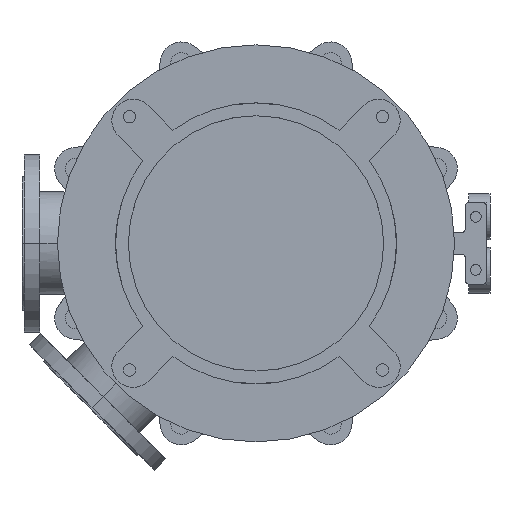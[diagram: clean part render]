
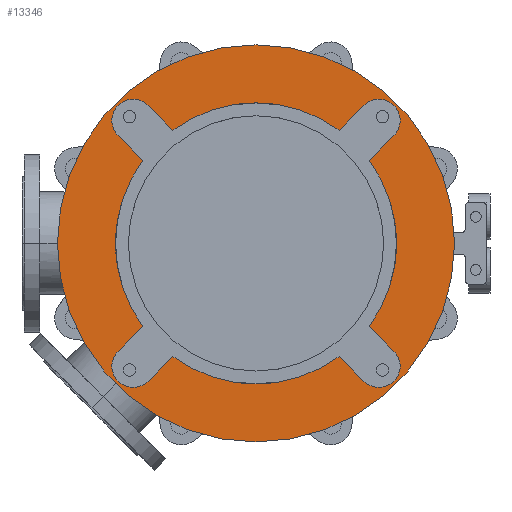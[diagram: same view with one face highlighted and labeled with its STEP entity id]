
A CAD part, front view. The second image highlights one B-rep face of the part: STEP entity #13346.
In plain terms, the highlighted planar face has unit normal (0, -1, 0).
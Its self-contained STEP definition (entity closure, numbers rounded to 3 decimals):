
#3019=CARTESIAN_POINT('',(0.,-25.,0.));
#3020=DIRECTION('',(0.,1.,0.));
#3021=DIRECTION('',(0.592,0.,-0.806));
#3022=AXIS2_PLACEMENT_3D('',#3019,#3020,#3021);
#3037=CARTESIAN_POINT('',(0.,-25.,0.));
#3038=DIRECTION('',(0.,1.,0.));
#3039=DIRECTION('',(0.806,0.,0.592));
#3040=AXIS2_PLACEMENT_3D('',#3037,#3038,#3039);
#3064=CARTESIAN_POINT('',(0.,-25.,0.));
#3065=DIRECTION('',(0.,1.,0.));
#3066=DIRECTION('',(-0.806,0.,-0.592));
#3067=AXIS2_PLACEMENT_3D('',#3064,#3065,#3066);
#3073=CARTESIAN_POINT('',(0.,-25.,0.));
#3074=DIRECTION('',(0.,1.,0.));
#3075=DIRECTION('',(-0.592,0.,0.806));
#3076=AXIS2_PLACEMENT_3D('',#3073,#3074,#3075);
#3251=CARTESIAN_POINT('',(0.,-25.,0.));
#3252=DIRECTION('',(0.,-1.,0.));
#3253=DIRECTION('',(-1.,0.,0.));
#3254=AXIS2_PLACEMENT_3D('',#3251,#3252,#3253);
#3256=CARTESIAN_POINT('',(0.,-25.,0.));
#3257=DIRECTION('',(0.,1.,0.));
#3258=DIRECTION('',(-1.,0.,0.));
#3259=AXIS2_PLACEMENT_3D('',#3256,#3257,#3258);
#3261=CARTESIAN_POINT('',(-173.241,-25.,173.241));
#3262=DIRECTION('',(0.,-1.,0.));
#3263=DIRECTION('',(0.707,0.,0.707));
#3264=AXIS2_PLACEMENT_3D('',#3261,#3262,#3263);
#3266=DIRECTION('',(0.707,0.,-0.707));
#3267=VECTOR('',#3266,49.286);
#3268=CARTESIAN_POINT('',(-194.454,-25.,152.028));
#3269=LINE('',#3268,#3267);
#3270=DIRECTION('',(-0.707,0.,-0.707));
#3271=VECTOR('',#3270,49.286);
#3272=CARTESIAN_POINT('',(-159.604,-25.,-117.178));
#3273=LINE('',#3272,#3271);
#3274=CARTESIAN_POINT('',(-173.241,-25.,-173.241));
#3275=DIRECTION('',(0.,-1.,0.));
#3276=DIRECTION('',(-0.707,0.,0.707));
#3277=AXIS2_PLACEMENT_3D('',#3274,#3275,#3276);
#3279=DIRECTION('',(0.707,0.,0.707));
#3280=VECTOR('',#3279,49.286);
#3281=CARTESIAN_POINT('',(-152.028,-25.,-194.454));
#3282=LINE('',#3281,#3280);
#3283=DIRECTION('',(0.707,0.,-0.707));
#3284=VECTOR('',#3283,49.286);
#3285=CARTESIAN_POINT('',(117.178,-25.,-159.604));
#3286=LINE('',#3285,#3284);
#3287=CARTESIAN_POINT('',(173.241,-25.,-173.241));
#3288=DIRECTION('',(0.,-1.,0.));
#3289=DIRECTION('',(-0.707,0.,-0.707));
#3290=AXIS2_PLACEMENT_3D('',#3287,#3288,#3289);
#3292=DIRECTION('',(-0.707,0.,0.707));
#3293=VECTOR('',#3292,49.286);
#3294=CARTESIAN_POINT('',(194.454,-25.,-152.028));
#3295=LINE('',#3294,#3293);
#3296=DIRECTION('',(0.707,0.,0.707));
#3297=VECTOR('',#3296,49.286);
#3298=CARTESIAN_POINT('',(159.604,-25.,117.178));
#3299=LINE('',#3298,#3297);
#3300=CARTESIAN_POINT('',(173.241,-25.,173.241));
#3301=DIRECTION('',(0.,-1.,0.));
#3302=DIRECTION('',(0.707,0.,-0.707));
#3303=AXIS2_PLACEMENT_3D('',#3300,#3301,#3302);
#3305=DIRECTION('',(-0.707,0.,-0.707));
#3306=VECTOR('',#3305,49.286);
#3307=CARTESIAN_POINT('',(152.028,-25.,194.454));
#3308=LINE('',#3307,#3306);
#3309=DIRECTION('',(-0.707,0.,0.707));
#3310=VECTOR('',#3309,49.286);
#3311=CARTESIAN_POINT('',(-117.178,-25.,159.604));
#3312=LINE('',#3311,#3310);
#8322=CARTESIAN_POINT('',(-280.,-25.,0.));
#8323=CARTESIAN_POINT('',(280.,-25.,0.));
#8324=VERTEX_POINT('',#8322);
#8325=VERTEX_POINT('',#8323);
#8346=CARTESIAN_POINT('',(-194.454,-25.,-152.028));
#8347=CARTESIAN_POINT('',(-152.028,-25.,-194.454));
#8348=VERTEX_POINT('',#8346);
#8349=VERTEX_POINT('',#8347);
#8350=CARTESIAN_POINT('',(-117.178,-25.,-159.604));
#8351=VERTEX_POINT('',#8350);
#8352=CARTESIAN_POINT('',(-159.604,-25.,-117.178));
#8353=VERTEX_POINT('',#8352);
#8362=CARTESIAN_POINT('',(152.028,-25.,-194.454));
#8363=CARTESIAN_POINT('',(194.454,-25.,-152.028));
#8364=VERTEX_POINT('',#8362);
#8365=VERTEX_POINT('',#8363);
#8366=CARTESIAN_POINT('',(159.604,-25.,-117.178));
#8367=VERTEX_POINT('',#8366);
#8368=CARTESIAN_POINT('',(117.178,-25.,-159.604));
#8369=VERTEX_POINT('',#8368);
#8378=CARTESIAN_POINT('',(194.454,-25.,152.028));
#8379=CARTESIAN_POINT('',(152.028,-25.,194.454));
#8380=VERTEX_POINT('',#8378);
#8381=VERTEX_POINT('',#8379);
#8382=CARTESIAN_POINT('',(117.178,-25.,159.604));
#8383=VERTEX_POINT('',#8382);
#8384=CARTESIAN_POINT('',(159.604,-25.,117.178));
#8385=VERTEX_POINT('',#8384);
#8394=CARTESIAN_POINT('',(-152.028,-25.,194.454));
#8395=CARTESIAN_POINT('',(-194.454,-25.,152.028));
#8396=VERTEX_POINT('',#8394);
#8397=VERTEX_POINT('',#8395);
#8398=CARTESIAN_POINT('',(-159.604,-25.,117.178));
#8399=VERTEX_POINT('',#8398);
#8400=CARTESIAN_POINT('',(-117.178,-25.,159.604));
#8401=VERTEX_POINT('',#8400);
#13306=CARTESIAN_POINT('',(0.,-25.,0.));
#13307=DIRECTION('',(0.,-1.,0.));
#13308=DIRECTION('',(-1.,0.,0.));
#13309=AXIS2_PLACEMENT_3D('',#13306,#13307,#13308);
#13310=PLANE('',#13309);
#13312=ORIENTED_EDGE('',*,*,#13311,.F.);
#13314=ORIENTED_EDGE('',*,*,#13313,.T.);
#13315=EDGE_LOOP('',(#13312,#13314));
#13316=FACE_OUTER_BOUND('',#13315,.F.);
#13318=ORIENTED_EDGE('',*,*,#13317,.T.);
#13320=ORIENTED_EDGE('',*,*,#13319,.T.);
#13321=ORIENTED_EDGE('',*,*,#13259,.F.);
#13323=ORIENTED_EDGE('',*,*,#13322,.T.);
#13325=ORIENTED_EDGE('',*,*,#13324,.T.);
#13327=ORIENTED_EDGE('',*,*,#13326,.T.);
#13328=ORIENTED_EDGE('',*,*,#13212,.F.);
#13329=ORIENTED_EDGE('',*,*,#13296,.T.);
#13331=ORIENTED_EDGE('',*,*,#13330,.T.);
#13333=ORIENTED_EDGE('',*,*,#13332,.T.);
#13334=ORIENTED_EDGE('',*,*,#13233,.F.);
#13336=ORIENTED_EDGE('',*,*,#13335,.T.);
#13338=ORIENTED_EDGE('',*,*,#13337,.T.);
#13340=ORIENTED_EDGE('',*,*,#13339,.T.);
#13341=ORIENTED_EDGE('',*,*,#13277,.F.);
#13343=ORIENTED_EDGE('',*,*,#13342,.T.);
#13344=EDGE_LOOP('',(#13318,#13320,#13321,#13323,#13325,#13327,#13328,#13329,
#13331,#13333,#13334,#13336,#13338,#13340,#13341,#13343));
#13345=FACE_BOUND('',#13344,.F.);
#13346=ADVANCED_FACE('',(#13316,#13345),#13310,.T.);
#3023=CIRCLE('',#3022,198.);
#3041=CIRCLE('',#3040,198.);
#3068=CIRCLE('',#3067,198.);
#3077=CIRCLE('',#3076,198.);
#3255=CIRCLE('',#3254,280.);
#3260=CIRCLE('',#3259,280.);
#3265=CIRCLE('',#3264,30.);
#3278=CIRCLE('',#3277,30.);
#3291=CIRCLE('',#3290,30.);
#3304=CIRCLE('',#3303,30.);
#13212=EDGE_CURVE('',#8369,#8351,#3023,.T.);
#13233=EDGE_CURVE('',#8385,#8367,#3041,.T.);
#13259=EDGE_CURVE('',#8353,#8399,#3068,.T.);
#13277=EDGE_CURVE('',#8401,#8383,#3077,.T.);
#13296=EDGE_CURVE('',#8369,#8364,#3286,.T.);
#13311=EDGE_CURVE('',#8324,#8325,#3255,.T.);
#13313=EDGE_CURVE('',#8324,#8325,#3260,.T.);
#13317=EDGE_CURVE('',#8396,#8397,#3265,.T.);
#13319=EDGE_CURVE('',#8397,#8399,#3269,.T.);
#13322=EDGE_CURVE('',#8353,#8348,#3273,.T.);
#13324=EDGE_CURVE('',#8348,#8349,#3278,.T.);
#13326=EDGE_CURVE('',#8349,#8351,#3282,.T.);
#13330=EDGE_CURVE('',#8364,#8365,#3291,.T.);
#13332=EDGE_CURVE('',#8365,#8367,#3295,.T.);
#13335=EDGE_CURVE('',#8385,#8380,#3299,.T.);
#13337=EDGE_CURVE('',#8380,#8381,#3304,.T.);
#13339=EDGE_CURVE('',#8381,#8383,#3308,.T.);
#13342=EDGE_CURVE('',#8401,#8396,#3312,.T.);
